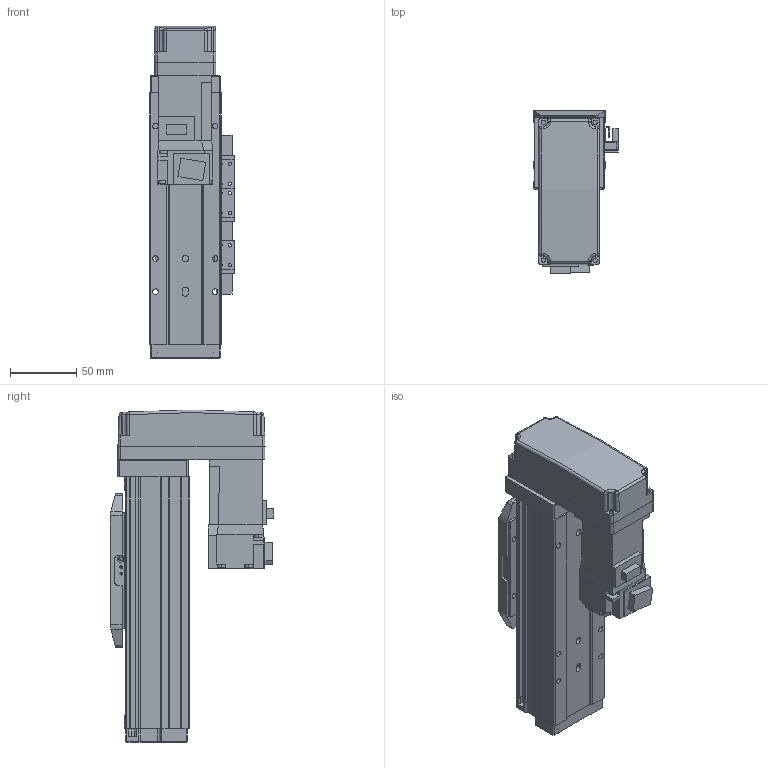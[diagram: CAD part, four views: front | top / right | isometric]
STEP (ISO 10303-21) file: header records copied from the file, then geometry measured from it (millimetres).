
FILE_DESCRIPTION (( 'STEP AP214' ), '1' );
FILE_NAME ('N_GRH5-50-BM-M10.step', '2025-03-14T10:50:29', ( '' ), ( '' ), 'SwSTEP 2.0', 'SolidWorks 2016', '' );
FILE_SCHEMA (( 'AUTOMOTIVE_DESIGN' ));
Length unit declared in the file: millimetre
Products named in the file (5): N_GRH5-GY-011^N_GRH5-50-BM-M10; N_GRH5-50-BM-M10; N_GRH5-BL-008^N_GRH5-50-BM-M10; HF-KP13_100W_Motor^N_GRH5-50-BM-M10; N_GRH5-GY-004^N_GRH5-50-BM-M10
Assembly tree (4 placements, depth 2):
  N_GRH5-50-BM-M10
    N_GRH5-GY-011^N_GRH5-50-BM-M10
    N_GRH5-GY-004^N_GRH5-50-BM-M10
    HF-KP13_100W_Motor^N_GRH5-50-BM-M10
    N_GRH5-BL-008^N_GRH5-50-BM-M10
Bounding box: 64.05 x 123.7 x 250.5 mm (x, y, z)
Volume: 776530.2 mm3; surface area: 172858.4 mm2
Topology: 4 solids, 5 shells, 914 faces, 2342 edges, 1481 vertices
Faces by surface type: plane 543, cylinder 296, cone 50, bspline 15, sphere 10
Entity records: 34933 total; most frequent: CARTESIAN_POINT 5503, DIRECTION 4691, ORIENTED_EDGE 4620, EDGE_CURVE 2310, VECTOR 1625, LINE 1625, AXIS2_PLACEMENT_3D 1533, VERTEX_POINT 1479
